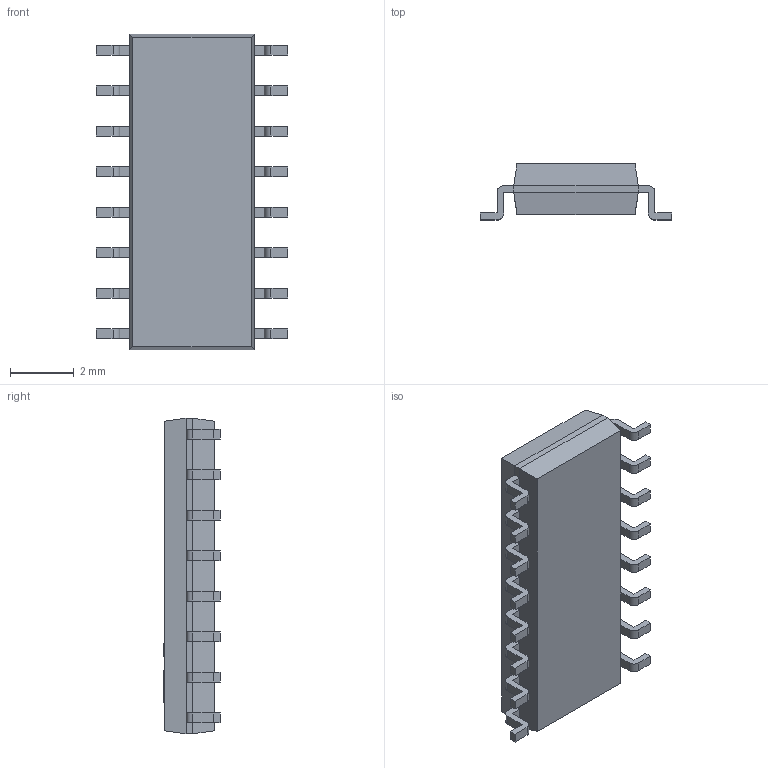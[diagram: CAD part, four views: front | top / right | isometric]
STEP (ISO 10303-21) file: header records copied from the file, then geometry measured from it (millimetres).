
FILE_DESCRIPTION(/* description */ ('FreeCAD Model'),/* implementation_level */ '2;1');
FILE_NAME(/* name */ 'METUPowerLab_Switching_PWMControllers_SOIC-16-TL494CDR.step',/* time_stamp */ '2026-09-13T22:19:00+03:00',/* author */ (''),/* organization */ (''),/* preprocessor_version */ 'ST-DEVELOPER v20.2',/* originating_system */ 'Autodesk Translation Framework v15.15.0.0',/* authorisation */ '');
FILE_SCHEMA (('AUTOMOTIVE_DESIGN { 1 0 10303 214 3 1 1 }'));
Length unit declared in the file: millimetre
Products named in the file (8): SOIC_standard; Array; #22708; Array001; Body001; Body; Body003; X-axis
Assembly tree (32 placements, depth 3):
  SOIC_standard
    Array
      #22708  x8
    Array001
      Body001  x8
    Body
    Body003
    X-axis  x12
Bounding box: 6 x 1.76 x 9.9 mm (x, y, z)
Volume: 60.9 mm3; surface area: 147.9 mm2
Topology: 18 solids, 18 shells, 838 faces, 2296 edges, 1528 vertices
Faces by surface type: plane 493, bspline 311, cylinder 34
Full cylindrical faces by diameter (mm): 0.39 x2
Entity records: 22310 total; most frequent: CARTESIAN_POINT 7187, ORIENTED_EDGE 3752, DIRECTION 2055, EDGE_CURVE 1876, VERTEX_POINT 1248, LINE 1233, VECTOR 1233, EDGE_LOOP 704
